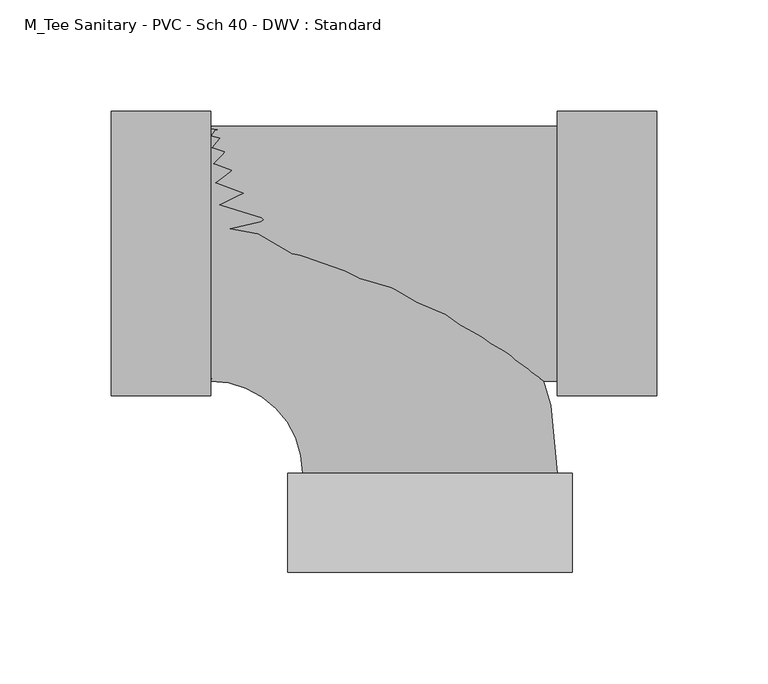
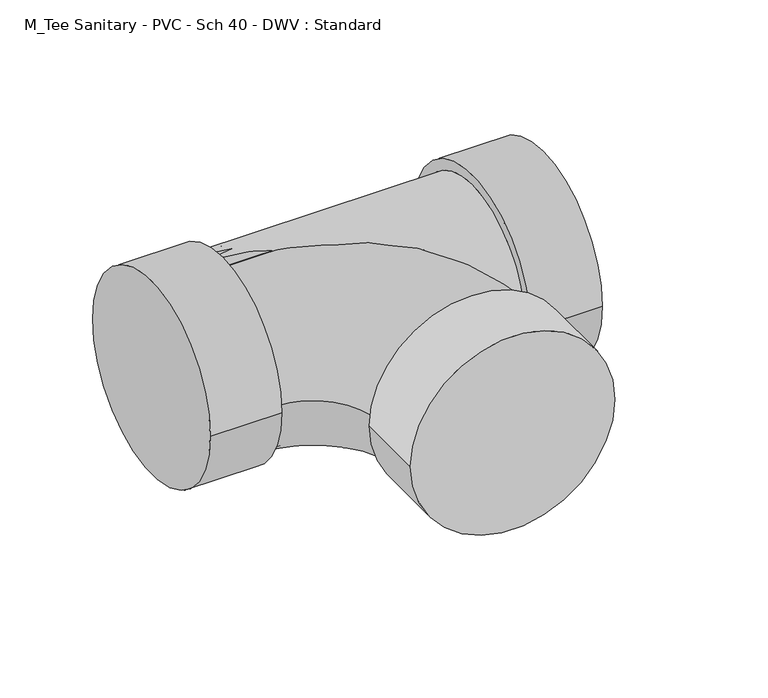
"""IFC4 building model written with IfcOpenShell, lengths in millimetres: pipe fitting geometry, M_Tee Sanitary - PVC - Sch 40 - DWV : Standard."""

import ifcopenshell
import ifcopenshell.guid

model = None  # the IFC model being written
_history = None  # IfcOwnerHistory: only IFC2X3 demands one
_inside = {}  # id of a spatial element -> (the spatial element, [elements in it])
_under = {}  # id of a project, library or spatial element -> (it, [spatial elements below it])
_declared = {}  # id of a project -> (the project, [libraries it declares])
_typed = {}  # id of a type object -> (the type object, [elements of that type])
_made_of = {}  # id of a material, layer set ... -> (it, [elements and type objects made of it])


def new_model(schema):
    """Start an empty IFC model of exactly this schema.

    Asked for "IFC4X3", IfcOpenShell would pick the latest addendum, in which some entities
    have other attributes; the version numbers below select the first issue.
    IFC2X3 requires an IfcOwnerHistory on every rooted entity: one is made here for all.
    """
    global model, _history
    if schema == "IFC4X3":
        model = ifcopenshell.file(schema_version=(4, 3, 0, 0))
    else:
        model = ifcopenshell.file(schema=schema)
    _inside.clear()
    _under.clear()
    _declared.clear()
    _typed.clear()
    _made_of.clear()
    _history = None
    if model.schema == "IFC2X3":
        org = make("IfcOrganization", Name="unknown")
        user = make(
            "IfcPersonAndOrganization",
            ThePerson=make("IfcPerson", FamilyName="unknown"),
            TheOrganization=org,
        )
        app = make(
            "IfcApplication",
            ApplicationDeveloper=org,
            Version="unknown",
            ApplicationFullName="unknown",
            ApplicationIdentifier="unknown",
        )
        _history = make(
            "IfcOwnerHistory",
            OwningUser=user,
            OwningApplication=app,
            ChangeAction="ADDED",
            CreationDate=0,
        )
    return model


def make(cls, **values):
    """One entity of the class cls with the attributes given. An attribute that is None is left unset."""
    return model.create_entity(
        cls, **{name: value for name, value in values.items() if value is not None}
    )


def rooted(cls, **values):
    """An entity with a GlobalId (a new one), such as an element, a storey or a relation."""
    return make(cls, GlobalId=ifcopenshell.guid.new(), OwnerHistory=_history, **values)


def si_unit(unit_type, name, prefix=None):
    """IfcSIUnit, for example si_unit("LENGTHUNIT", "METRE", prefix="MILLI")."""
    return make("IfcSIUnit", UnitType=unit_type, Prefix=prefix, Name=name)


def assignment(units):
    """IfcUnitAssignment: the units of a project."""
    return None if units is None else make("IfcUnitAssignment", Units=units)


def point(xyz):
    """IfcCartesianPoint."""
    return None if xyz is None else make("IfcCartesianPoint", Coordinates=xyz)


def direction(xyz):
    """IfcDirection."""
    return None if xyz is None else make("IfcDirection", DirectionRatios=xyz)


def frame(location, z_axis=None, x_axis=None):
    """IfcAxis2Placement3D, a coordinate frame: its origin and axes. An axis left out is left unset."""
    return make(
        "IfcAxis2Placement3D",
        Location=point(location),
        Axis=direction(z_axis),
        RefDirection=direction(x_axis),
    )


def origin():
    """The frame at (0, 0, 0) with its axes left unset."""
    return frame((0.0, 0.0, 0.0))


def place(relative_to, where):
    """IfcLocalPlacement: puts the frame where relative to a parent placement (None: the world)."""
    return make(
        "IfcLocalPlacement", PlacementRelTo=relative_to, RelativePlacement=where
    )


def context(
    kind, dimensions, precision=None, world=None, true_north=None, identifier=None
):
    """IfcGeometricRepresentationContext, for example the 3D "Model" context."""
    return make(
        "IfcGeometricRepresentationContext",
        ContextIdentifier=identifier,
        ContextType=kind,
        CoordinateSpaceDimension=dimensions,
        Precision=precision,
        WorldCoordinateSystem=world,
        TrueNorth=true_north,
    )


def project(units=None, contexts=None):
    """IfcProject with its units and contexts."""
    return rooted(
        "IfcProject",
        Name="project",
        RepresentationContexts=contexts,
        UnitsInContext=assignment(units),
    )


def spatial(cls, under=None, at=None, **own):
    """A site, building, storey or space (cls), placed at a placement, below another one or the project."""
    s = rooted(cls, ObjectPlacement=at, **own)
    if under is not None:
        _under.setdefault(under.id(), (under, []))[1].append(s)
    return s


def circle_curve(where, radius):
    """IfcCircle in the frame where."""
    return make("IfcCircle", Position=where, Radius=radius)


def ellipse_curve(where, semi_axis1, semi_axis2):
    """IfcEllipse in the frame where."""
    return make(
        "IfcEllipse", Position=where, SemiAxis1=semi_axis1, SemiAxis2=semi_axis2
    )


def trimmed(basis, trim1, trim2, sense, master):
    """IfcTrimmedCurve: the piece of a basis curve between two trims."""
    return make(
        "IfcTrimmedCurve",
        BasisCurve=basis,
        Trim1=trim1,
        Trim2=trim2,
        SenseAgreement=sense,
        MasterRepresentation=master,
    )


def shape(context_of_items, identifier, shape_type, items):
    """IfcShapeRepresentation: the items that make up one representation, for example the "Body"."""
    return make(
        "IfcShapeRepresentation",
        ContextOfItems=context_of_items,
        RepresentationIdentifier=identifier,
        RepresentationType=shape_type,
        Items=items,
    )


def source(mapping_origin, context_of_items, identifier, shape_type, items):
    """IfcRepresentationMap: a shape defined once, which mapped items show again and again."""
    return make(
        "IfcRepresentationMap",
        MappingOrigin=mapping_origin,
        MappedRepresentation=shape(context_of_items, identifier, shape_type, items),
    )


def transform(
    local_origin,
    x_axis=None,
    y_axis=None,
    z_axis=None,
    scale=None,
    scale2=None,
    scale3=None,
    uniform=True,
):
    """IfcCartesianTransformationOperator3D, or its non-uniform kind. x_axis, y_axis, z_axis: its Axis1, 2, 3."""
    if uniform:
        return make(
            "IfcCartesianTransformationOperator3D",
            Axis1=direction(x_axis),
            Axis2=direction(y_axis),
            LocalOrigin=point(local_origin),
            Scale=scale,
            Axis3=direction(z_axis),
        )
    return make(
        "IfcCartesianTransformationOperator3DnonUniform",
        Axis1=direction(x_axis),
        Axis2=direction(y_axis),
        LocalOrigin=point(local_origin),
        Scale=scale,
        Axis3=direction(z_axis),
        Scale2=scale2,
        Scale3=scale3,
    )


def mapped(mapping_source, mapping_target):
    """IfcMappedItem: shows the shape of a source again, moved by a transform."""
    return make(
        "IfcMappedItem", MappingSource=mapping_source, MappingTarget=mapping_target
    )


def made_of(thing, what):
    """Note that an element or type object is made of a material, layer set ...; save() writes the relation."""
    if what is not None:
        _made_of.setdefault(what.id(), (what, []))[1].append(thing)
    return thing


def element(
    cls,
    number,
    at=None,
    inside=None,
    cuts=None,
    type_object=None,
    material=None,
    context=None,
    identifier="Body",
    shape_type=None,
    held_by="IfcProductDefinitionShape",
    body=None,
    shapes=None,
    **own,
):
    """One element of the class cls, such as IfcWall. Its Tag is "e" and its number.

    at: its placement. inside: the storey or other place that contains it. cuts: it is an
    opening in that element (IfcRelVoidsElement). A single representation is given by context,
    identifier, shape_type and body (its items); several are given by shapes. held_by: the class
    of the entity that holds the representations. save() writes the other relations.
    """
    e = rooted(cls, Tag="e%d" % number, ObjectPlacement=at, **own)
    if body is not None:
        shapes = [shape(context, identifier, shape_type, body)]
    if shapes is not None:
        e.Representation = make(held_by, Representations=shapes)
    if inside is not None:
        _inside.setdefault(inside.id(), (inside, []))[1].append(e)
    if cuts is not None:
        rooted(
            "IfcRelVoidsElement", RelatingBuildingElement=cuts, RelatedOpeningElement=e
        )
    if type_object is not None:
        _typed.setdefault(type_object.id(), (type_object, []))[1].append(e)
    return made_of(e, material)


def aggregate(whole, parts):
    """IfcRelAggregates: a whole, such as a stair, and the parts it consists of."""
    return rooted("IfcRelAggregates", RelatingObject=whole, RelatedObjects=parts)


def save(model, path):
    """Write the relations noted so far, then the file.

    IfcRelAggregates (storeys below a building ...), IfcRelContainedInSpatialStructure (elements
    in a storey), IfcRelDefinesByType, IfcRelAssociatesMaterial and IfcRelDeclares: one each for
    every whole, place, type object, material and project.
    """
    for whole, parts in _under.values():
        aggregate(whole, parts)
    for where, things in _inside.values():
        rooted(
            "IfcRelContainedInSpatialStructure",
            RelatedElements=things,
            RelatingStructure=where,
        )
    for kind, things in _typed.values():
        rooted("IfcRelDefinesByType", RelatedObjects=things, RelatingType=kind)
    for what, things in _made_of.values():
        rooted("IfcRelAssociatesMaterial", RelatedObjects=things, RelatingMaterial=what)
    for by, libraries in _declared.values():
        rooted("IfcRelDeclares", RelatingContext=by, RelatedDefinitions=libraries)
    model.write(path)


def plane_surface(at):
    """IfcPlane: the flat surface through the origin of the frame at, square to its z axis."""
    return make("IfcPlane", Position=at)


def cylinder_surface(at, radius):
    """IfcCylindricalSurface: all points at the distance radius from the z axis of the frame at."""
    return make("IfcCylindricalSurface", Position=at, Radius=radius)


def revolved_surface(curve, axis_point, axis_direction):
    """IfcSurfaceOfRevolution: the curve turned about the line through axis_point along axis_direction."""
    return make(
        "IfcSurfaceOfRevolution",
        SweptCurve=make("IfcArbitraryOpenProfileDef", ProfileType="CURVE", Curve=curve),
        AxisPosition=make("IfcAxis1Placement", Location=point(axis_point), Axis=direction(axis_direction)),
    )


def advanced_brep(points, edges, surfaces, faces):
    """IfcAdvancedBrep: a solid bounded by faces that lie on surfaces and meet in shared edges.

    An edge is (start, end): straight between two places in points (the first is 0);
    or (start, end, curve); or (start, end, curve, False) where it runs against its curve.
    A face is (place in surfaces, loops), or (place, loops, False) where it looks against
    its surface's normal. A loop lists edges by number (the first is 1), with a minus sign
    where the edge is run from its end to its start. The first loop is the outer one.
    """
    corners = [point(p) for p in points]
    vertices = [make("IfcVertexPoint", VertexGeometry=c) for c in corners]
    made = []
    for start, end, *more in edges:
        made.append(
            make(
                "IfcEdgeCurve",
                EdgeStart=vertices[start],
                EdgeEnd=vertices[end],
                EdgeGeometry=more[0] if more else make("IfcPolyline", Points=[corners[start], corners[end]]),
                SameSense=more[1] if len(more) > 1 else True,
            )
        )
    hull = []
    for where, loops, *sense in faces:
        bounds = []
        for j, loop in enumerate(loops):
            ring = [make("IfcOrientedEdge", EdgeElement=made[abs(k) - 1], Orientation=k > 0) for k in loop]
            bounds.append(
                make(
                    "IfcFaceOuterBound" if j == 0 else "IfcFaceBound",
                    Bound=make("IfcEdgeLoop", EdgeList=ring),
                    Orientation=True,
                )
            )
        hull.append(make("IfcAdvancedFace", Bounds=bounds, FaceSurface=surfaces[where], SameSense=sense[0] if sense else True))
    return make("IfcAdvancedBrep", Outer=make("IfcClosedShell", CfsFaces=hull))


def m_tee_sanitary_pvc_sch_40_dwv_standard_d1848222(model_context):
    return source(origin(), model_context, "Body", "AdvancedBrep", [
        advanced_brep(
        [(-98.425, -57.15, 0.0), (-98.425, 57.15, 0.0), (-57.15, -98.425, 0.0), (57.15, -98.425, 0.0), (63.754, -142.875, 0.0), (-63.754, -142.875, 0.0), (63.754, -98.425, 0.0), (-63.754, -98.425, 0.0)],
        [
            (0, 1, circle_curve(frame((-98.425, 0.0, 0.0), z_axis=(-1.0, 0.0, 0.0), x_axis=(0.0, 1.0, 0.0)), 57.15)),
            (1, 0, circle_curve(frame((-98.425, 0.0, 0.0), z_axis=(-1.0, 0.0, 0.0), x_axis=(0.0, 1.0, 0.0)), 57.15)),
            (0, 2, circle_curve(frame((-98.425, -98.425, 0.0), z_axis=(0.0, 0.0, -1.0), x_axis=(0.0, 1.0, 0.0)), 41.275)),
            (2, 3, circle_curve(frame((0.0, -98.425, 0.0), z_axis=(-1.0287938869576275e-12, 1.0, 0.0), x_axis=(1.0, 1.0287938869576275e-12, 0.0)), 57.15)),
            (3, 1, circle_curve(frame((-98.425, -98.425, 0.0), z_axis=(0.0, 0.0, 1.0), x_axis=(0.0, 1.0, 0.0)), 155.575)),
            (3, 2, circle_curve(frame((0.0, -98.425, 0.0), z_axis=(-1.0287938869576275e-12, 1.0, 0.0), x_axis=(1.0, 1.0287938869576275e-12, 0.0)), 57.15)),
            (4, 5, circle_curve(frame((0.0, -142.875, 0.0), z_axis=(0.0, -1.0, 0.0), x_axis=(-1.0, 0.0, 0.0)), 63.754)),
            (5, 4, circle_curve(frame((0.0, -142.875, 0.0), z_axis=(0.0, -1.0, 0.0), x_axis=(-1.0, 0.0, 0.0)), 63.754)),
            (6, 7, circle_curve(frame((0.0, -98.425, 0.0), z_axis=(0.0, 1.0, 0.0), x_axis=(-1.0, 0.0, 0.0)), 63.754)),
            (7, 6, circle_curve(frame((0.0, -98.425, 0.0), z_axis=(0.0, 1.0, 0.0), x_axis=(-1.0, 0.0, 0.0)), 63.754)),
            (4, 6),
            (7, 5),
        ],
        [
            plane_surface(frame((-98.425, 0.0, 0.0), z_axis=(-1.0, 0.0, 0.0), x_axis=(0.0, 0.0, 1.0))),
            revolved_surface(trimmed(ellipse_curve(frame((-98.425, 0.0, 0.0), z_axis=(-1.0, 0.0, 0.0), x_axis=(0.0, 1.0, 0.0)), 57.15, 57.15), [point((-98.425, -57.15, 0.0))], [point((-98.425, 57.15, 0.0))], True, "CARTESIAN"), (-98.425, -98.425, 0.0), (0.0, 0.0, -1.0)),
            revolved_surface(trimmed(ellipse_curve(frame((-98.425, 0.0, 0.0), z_axis=(-1.0, 0.0, 0.0), x_axis=(0.0, 1.0, 0.0)), 57.15, 57.15), [point((-98.425, 57.15, 0.0))], [point((-98.425, -57.15, 0.0))], True, "CARTESIAN"), (-98.425, -98.425, 0.0), (0.0, 0.0, -1.0)),
            plane_surface(frame((0.0, -142.875, 0.0), z_axis=(0.0, -1.0, 0.0), x_axis=(0.0, 0.0, 1.0))),
            plane_surface(frame((0.0, -98.425, 0.0), z_axis=(0.0, 1.0, 0.0), x_axis=(0.0, 0.0, 1.0))),
            cylinder_surface(frame((0.0, -142.875, 0.0), z_axis=(0.0, -1.0, 0.0), x_axis=(-1.0, 0.0, 0.0)), 63.754),
        ],
        [
            (0, [[1, 2]]),
            (1, [[-1, 3, 4, 5]]),
            (2, [[-2, -5, 6, -3]]),
            (3, [[7, 8]]),
            (4, [[9, 10], [-4, -6]]),
            (5, [[-7, 11, -10, 12]]),
            (5, [[-8, -12, -9, -11]]),
        ],
    ),
        advanced_brep(
        [(-98.425, -57.15, 0.0), (57.15, -57.15, 0.0), (57.15, 57.15, 0.0), (-98.425, 57.15, 0.0), (57.15, -63.754, 0.0), (57.15, 63.754, 0.0), (101.6, -63.754, 0.0), (101.6, 63.754, 0.0), (-142.875, -63.754, 0.0), (-142.875, 63.754, 0.0), (-98.425, -63.754, 0.0), (-98.425, 63.754, 0.0)],
        [
            (0, 1),
            (1, 2, circle_curve(frame((57.15, 0.0, 0.0), z_axis=(-1.0, 0.0, 0.0), x_axis=(0.0, 1.0, 0.0)), 57.15)),
            (2, 3),
            (3, 0, circle_curve(frame((-98.425, 0.0, 0.0), z_axis=(1.0, 0.0, 0.0), x_axis=(0.0, 1.0, 0.0)), 57.15)),
            (0, 3, circle_curve(frame((-98.425, 0.0, 0.0), z_axis=(1.0, 0.0, 0.0), x_axis=(0.0, 1.0, 0.0)), 57.15)),
            (2, 1, circle_curve(frame((57.15, 0.0, 0.0), z_axis=(-1.0, 0.0, 0.0), x_axis=(0.0, 1.0, 0.0)), 57.15)),
            (4, 5, circle_curve(frame((57.15, 0.0, 0.0), z_axis=(-1.0, 0.0, 0.0), x_axis=(0.0, 1.0, 0.0)), 63.754)),
            (5, 4, circle_curve(frame((57.15, 0.0, 0.0), z_axis=(-1.0, 0.0, 0.0), x_axis=(0.0, 1.0, 0.0)), 63.754)),
            (6, 7, circle_curve(frame((101.6, 0.0, 0.0), z_axis=(1.0, 0.0, 0.0), x_axis=(0.0, 1.0, 0.0)), 63.754)),
            (7, 6, circle_curve(frame((101.6, 0.0, 0.0), z_axis=(1.0, 0.0, 0.0), x_axis=(0.0, 1.0, 0.0)), 63.754)),
            (4, 6),
            (7, 5),
            (8, 9, circle_curve(frame((-142.875, 0.0, 0.0), z_axis=(-1.0, 0.0, 0.0), x_axis=(0.0, 1.0, 0.0)), 63.754)),
            (9, 8, circle_curve(frame((-142.875, 0.0, 0.0), z_axis=(-1.0, 0.0, 0.0), x_axis=(0.0, 1.0, 0.0)), 63.754)),
            (10, 11, circle_curve(frame((-98.425, 0.0, 0.0), z_axis=(1.0, 0.0, 0.0), x_axis=(0.0, 1.0, 0.0)), 63.754)),
            (11, 10, circle_curve(frame((-98.425, 0.0, 0.0), z_axis=(1.0, 0.0, 0.0), x_axis=(0.0, 1.0, 0.0)), 63.754)),
            (8, 10),
            (11, 9),
        ],
        [
            cylinder_surface(frame((-98.425, 0.0, 0.0), z_axis=(-1.0, 0.0, 0.0), x_axis=(0.0, 1.0, 0.0)), 57.15),
            plane_surface(frame((57.15, 0.0, 0.0), z_axis=(-1.0, 0.0, 0.0), x_axis=(0.0, 0.0, 1.0))),
            plane_surface(frame((101.6, 0.0, 0.0), z_axis=(1.0, 0.0, 0.0), x_axis=(0.0, 0.0, 1.0))),
            cylinder_surface(frame((57.15, 0.0, 0.0), z_axis=(-1.0, 0.0, 0.0), x_axis=(0.0, 1.0, 0.0)), 63.754),
            plane_surface(frame((-142.875, 0.0, 0.0), z_axis=(-1.0, 0.0, 0.0), x_axis=(0.0, 0.0, 1.0))),
            plane_surface(frame((-98.425, 0.0, 0.0), z_axis=(1.0, 0.0, 0.0), x_axis=(0.0, 0.0, 1.0))),
            cylinder_surface(frame((-142.875, 0.0, 0.0), z_axis=(-1.0, 0.0, 0.0), x_axis=(0.0, 1.0, 0.0)), 63.754),
        ],
        [
            (0, [[1, 2, 3, 4]]),
            (0, [[-1, 5, -3, 6]]),
            (1, [[7, 8], [-2, -6]]),
            (2, [[9, 10]]),
            (3, [[-7, 11, -10, 12]]),
            (3, [[-8, -12, -9, -11]]),
            (4, [[13, 14]]),
            (5, [[15, 16], [-4, -5]]),
            (6, [[-13, 17, -16, 18]]),
            (6, [[-14, -18, -15, -17]]),
        ],
    ),
    ])


if __name__ == "__main__":
    model = new_model("IFC4")
    model_context = context("Model", 3, world=origin())
    ifc_project = project(units=[si_unit("LENGTHUNIT", "METRE", prefix="MILLI")], contexts=[model_context])
    site = spatial("IfcSite", under=ifc_project)
    building = spatial("IfcBuilding", under=site)
    placement = place(None, origin())
    m_tee_sanitary_pvc_sch_40_dwv_standard_shape = m_tee_sanitary_pvc_sch_40_dwv_standard_d1848222(model_context)
    element("IfcPipeFitting", 1, ObjectType="M_Tee Sanitary - PVC - Sch 40 - DWV : Standard", at=placement, inside=building, context=model_context, shape_type="MappedRepresentation", body=[
        mapped(m_tee_sanitary_pvc_sch_40_dwv_standard_shape, transform((0.0, 0.0, 0.0), x_axis=(1.0, 0.0, 0.0), y_axis=(0.0, 1.0, 0.0), z_axis=(0.0, 0.0, 1.0))),
    ])
    save(model, "model.ifc")
